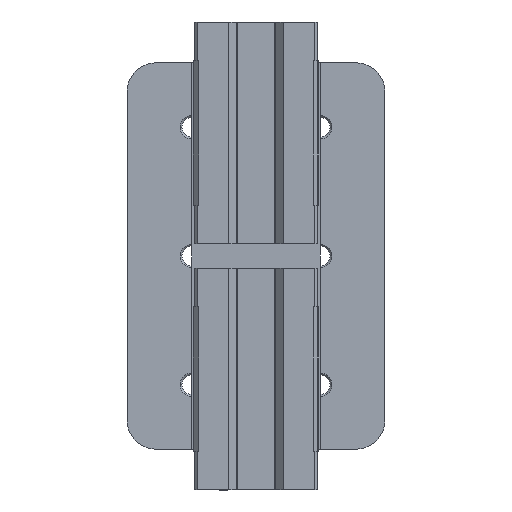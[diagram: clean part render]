
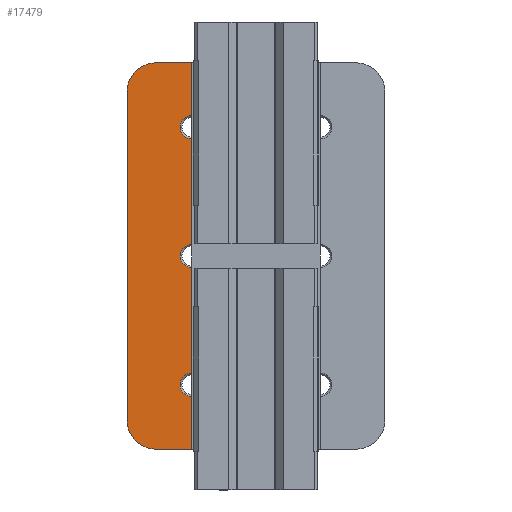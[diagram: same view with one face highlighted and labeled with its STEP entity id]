
A CAD part, front view. The second image highlights one B-rep face of the part: STEP entity #17479.
In plain terms, the highlighted planar face has unit normal (0, -1, 0).
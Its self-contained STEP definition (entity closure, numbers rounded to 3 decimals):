
#276 = VERTEX_POINT ( 'NONE', #19553 ) ;
#768 = DIRECTION ( 'NONE',  ( 0., 1., 0. ) ) ;
#802 = CARTESIAN_POINT ( 'NONE',  ( -131.863, 127.248, -319.273 ) ) ;
#2334 = CIRCLE ( 'NONE', #9502, 10. ) ;
#2928 = ORIENTED_EDGE ( 'NONE', *, *, #16828, .T. ) ;
#3055 = CARTESIAN_POINT ( 'NONE',  ( -121.863, 127.248, -431.773 ) ) ;
#3160 = DIRECTION ( 'NONE',  ( 0., 1., 0. ) ) ;
#3611 = DIRECTION ( 'NONE',  ( -1., 0., 0. ) ) ;
#4307 = CARTESIAN_POINT ( 'NONE',  ( -135.888, 127.248, -364.273 ) ) ;
#4509 = VERTEX_POINT ( 'NONE', #17725 ) ;
#4680 = ORIENTED_EDGE ( 'NONE', *, *, #13308, .T. ) ;
#4871 = CARTESIAN_POINT ( 'NONE',  ( -154.363, 127.248, -431.773 ) ) ;
#5174 = AXIS2_PLACEMENT_3D ( 'NONE', #22498, #22724, #5570 ) ;
#5570 = DIRECTION ( 'NONE',  ( -1., 0., 0. ) ) ;
#5612 = VERTEX_POINT ( 'NONE', #37644 ) ;
#5617 = DIRECTION ( 'NONE',  ( -1., 0., 0. ) ) ;
#6082 = EDGE_LOOP ( 'NONE', ( #4680, #10287 ) ) ;
#6260 = CARTESIAN_POINT ( 'NONE',  ( -144.363, 127.248, -431.773 ) ) ;
#6904 = VERTEX_POINT ( 'NONE', #4307 ) ;
#7485 = EDGE_CURVE ( 'NONE', #25112, #27703, #11511, .T. ) ;
#7529 = DIRECTION ( 'NONE',  ( -1., 0., 0. ) ) ;
#8097 = ORIENTED_EDGE ( 'NONE', *, *, #38789, .F. ) ;
#8129 = DIRECTION ( 'NONE',  ( 0., 0., 1. ) ) ;
#8285 = DIRECTION ( 'NONE',  ( -1., 0., 0. ) ) ;
#8347 = VERTEX_POINT ( 'NONE', #21489 ) ;
#9502 = AXIS2_PLACEMENT_3D ( 'NONE', #39577, #29458, #15218 ) ;
#9999 = FACE_OUTER_BOUND ( 'NONE', #25695, .T. ) ;
#10082 = ORIENTED_EDGE ( 'NONE', *, *, #43044, .T. ) ;
#10287 = ORIENTED_EDGE ( 'NONE', *, *, #20329, .T. ) ;
#10329 = DIRECTION ( 'NONE',  ( 0., 1., 0. ) ) ;
#10432 = PLANE ( 'NONE',  #29262 ) ;
#10620 = CARTESIAN_POINT ( 'NONE',  ( -144.363, 127.248, -306.773 ) ) ;
#11058 = AXIS2_PLACEMENT_3D ( 'NONE', #18892, #22283, #8285 ) ;
#11249 = CIRCLE ( 'NONE', #43722, 4.025 ) ;
#11511 = LINE ( 'NONE', #21902, #39167 ) ;
#11595 = CARTESIAN_POINT ( 'NONE',  ( -131.863, 127.248, -409.273 ) ) ;
#11858 = VERTEX_POINT ( 'NONE', #6260 ) ;
#11864 = EDGE_CURVE ( 'NONE', #27703, #8347, #40808, .T. ) ;
#12814 = VERTEX_POINT ( 'NONE', #35938 ) ;
#12872 = CIRCLE ( 'NONE', #43902, 4.025 ) ;
#13130 = VECTOR ( 'NONE', #32362, 1000. ) ;
#13308 = EDGE_CURVE ( 'NONE', #5612, #42317, #26906, .T. ) ;
#13759 = CARTESIAN_POINT ( 'NONE',  ( -121.863, 127.248, -431.773 ) ) ;
#13852 = DIRECTION ( 'NONE',  ( 0., 1., 0. ) ) ;
#14678 = CARTESIAN_POINT ( 'NONE',  ( -135.888, 127.248, -319.273 ) ) ;
#15218 = DIRECTION ( 'NONE',  ( -1., 0., 0. ) ) ;
#15306 = ORIENTED_EDGE ( 'NONE', *, *, #32561, .T. ) ;
#16818 = AXIS2_PLACEMENT_3D ( 'NONE', #11595, #18834, #18180 ) ;
#16828 = EDGE_CURVE ( 'NONE', #6904, #4509, #36464, .T. ) ;
#17479 = ADVANCED_FACE ( 'NONE', ( #23563, #41375, #30527, #9999 ), #10432, .F. ) ;
#17725 = CARTESIAN_POINT ( 'NONE',  ( -127.838, 127.248, -364.273 ) ) ;
#17852 = CARTESIAN_POINT ( 'NONE',  ( -135.888, 127.248, -409.273 ) ) ;
#18180 = DIRECTION ( 'NONE',  ( -1., 0., 0. ) ) ;
#18834 = DIRECTION ( 'NONE',  ( 0., 1., 0. ) ) ;
#18892 = CARTESIAN_POINT ( 'NONE',  ( -131.863, 127.248, -409.273 ) ) ;
#19553 = CARTESIAN_POINT ( 'NONE',  ( -154.363, 127.248, -421.773 ) ) ;
#20126 = AXIS2_PLACEMENT_3D ( 'NONE', #10620, #22338, #39474 ) ;
#20329 = EDGE_CURVE ( 'NONE', #42317, #5612, #31956, .T. ) ;
#21021 = EDGE_LOOP ( 'NONE', ( #15306, #2928 ) ) ;
#21489 = CARTESIAN_POINT ( 'NONE',  ( -144.363, 127.248, -296.773 ) ) ;
#21504 = VERTEX_POINT ( 'NONE', #14678 ) ;
#21902 = CARTESIAN_POINT ( 'NONE',  ( -121.863, 127.248, -431.773 ) ) ;
#22177 = VECTOR ( 'NONE', #38352, 1000. ) ;
#22283 = DIRECTION ( 'NONE',  ( 0., 1., 0. ) ) ;
#22338 = DIRECTION ( 'NONE',  ( 0., -1., 0. ) ) ;
#22498 = CARTESIAN_POINT ( 'NONE',  ( -131.863, 127.248, -364.273 ) ) ;
#22724 = DIRECTION ( 'NONE',  ( 0., 1., 0. ) ) ;
#23304 = EDGE_CURVE ( 'NONE', #12814, #21504, #11249, .T. ) ;
#23563 = FACE_BOUND ( 'NONE', #21021, .T. ) ;
#23876 = DIRECTION ( 'NONE',  ( -1., 0., 0. ) ) ;
#24159 = LINE ( 'NONE', #13759, #22177 ) ;
#24236 = AXIS2_PLACEMENT_3D ( 'NONE', #34050, #3160, #5617 ) ;
#24902 = ORIENTED_EDGE ( 'NONE', *, *, #35307, .T. ) ;
#25112 = VERTEX_POINT ( 'NONE', #3055 ) ;
#25695 = EDGE_LOOP ( 'NONE', ( #8097, #26952, #36789, #27701, #32989, #10082 ) ) ;
#26906 = CIRCLE ( 'NONE', #11058, 4.025 ) ;
#26952 = ORIENTED_EDGE ( 'NONE', *, *, #44571, .T. ) ;
#27701 = ORIENTED_EDGE ( 'NONE', *, *, #7485, .T. ) ;
#27703 = VERTEX_POINT ( 'NONE', #27854 ) ;
#27747 = EDGE_LOOP ( 'NONE', ( #36661, #24902 ) ) ;
#27854 = CARTESIAN_POINT ( 'NONE',  ( -121.863, 127.248, -296.773 ) ) ;
#28782 = CIRCLE ( 'NONE', #20126, 10. ) ;
#29262 = AXIS2_PLACEMENT_3D ( 'NONE', #32085, #768, #42501 ) ;
#29458 = DIRECTION ( 'NONE',  ( 0., -1., 0. ) ) ;
#30527 = FACE_BOUND ( 'NONE', #6082, .T. ) ;
#30887 = CARTESIAN_POINT ( 'NONE',  ( -131.863, 127.248, -319.273 ) ) ;
#31483 = LINE ( 'NONE', #4871, #13130 ) ;
#31956 = CIRCLE ( 'NONE', #16818, 4.025 ) ;
#32085 = CARTESIAN_POINT ( 'NONE',  ( -121.863, 127.248, -431.773 ) ) ;
#32362 = DIRECTION ( 'NONE',  ( 0., 0., 1. ) ) ;
#32526 = CARTESIAN_POINT ( 'NONE',  ( -154.363, 127.248, -306.773 ) ) ;
#32561 = EDGE_CURVE ( 'NONE', #4509, #6904, #36851, .T. ) ;
#32989 = ORIENTED_EDGE ( 'NONE', *, *, #11864, .T. ) ;
#33824 = CARTESIAN_POINT ( 'NONE',  ( -121.863, 127.248, -296.773 ) ) ;
#34050 = CARTESIAN_POINT ( 'NONE',  ( -131.863, 127.248, -364.273 ) ) ;
#34649 = VECTOR ( 'NONE', #23876, 1000. ) ;
#35307 = EDGE_CURVE ( 'NONE', #21504, #12814, #12872, .T. ) ;
#35938 = CARTESIAN_POINT ( 'NONE',  ( -127.838, 127.248, -319.273 ) ) ;
#36464 = CIRCLE ( 'NONE', #24236, 4.025 ) ;
#36661 = ORIENTED_EDGE ( 'NONE', *, *, #23304, .T. ) ;
#36789 = ORIENTED_EDGE ( 'NONE', *, *, #42220, .F. ) ;
#36851 = CIRCLE ( 'NONE', #5174, 4.025 ) ;
#37644 = CARTESIAN_POINT ( 'NONE',  ( -127.838, 127.248, -409.273 ) ) ;
#38352 = DIRECTION ( 'NONE',  ( -1., 0., 0. ) ) ;
#38789 = EDGE_CURVE ( 'NONE', #276, #42780, #31483, .T. ) ;
#39167 = VECTOR ( 'NONE', #8129, 1000. ) ;
#39474 = DIRECTION ( 'NONE',  ( -1., 0., 0. ) ) ;
#39577 = CARTESIAN_POINT ( 'NONE',  ( -144.363, 127.248, -421.773 ) ) ;
#40808 = LINE ( 'NONE', #33824, #34649 ) ;
#41375 = FACE_BOUND ( 'NONE', #27747, .T. ) ;
#42220 = EDGE_CURVE ( 'NONE', #25112, #11858, #24159, .T. ) ;
#42317 = VERTEX_POINT ( 'NONE', #17852 ) ;
#42501 = DIRECTION ( 'NONE',  ( -1., 0., 0. ) ) ;
#42780 = VERTEX_POINT ( 'NONE', #32526 ) ;
#43044 = EDGE_CURVE ( 'NONE', #8347, #42780, #28782, .T. ) ;
#43722 = AXIS2_PLACEMENT_3D ( 'NONE', #802, #13852, #7529 ) ;
#43902 = AXIS2_PLACEMENT_3D ( 'NONE', #30887, #10329, #3611 ) ;
#44571 = EDGE_CURVE ( 'NONE', #276, #11858, #2334, .T. ) ;
